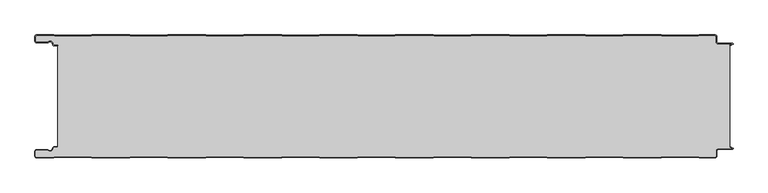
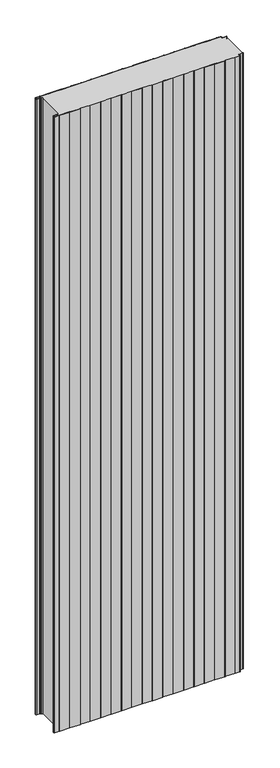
"""IFC4 building model written with IfcOpenShell, lengths in millimetres: plate geometry, ACH_Panel-Frigorífico_PUR-PIR : ACH_Panel-Frigorífico-PIR_180mm."""

from ifc_helpers import new_model, si_unit, point, frame_2d, origin, origin_with_axes, place, context, project, spatial, polyline, circle_curve, trimmed, segment, composite_curve, outline, extrude, source, transform, mapped, element, save


def plate_20741c4c(model_context):
    return source(origin(), model_context, "Body", "SweptSolid", [
        extrude(outline(composite_curve([segment(trimmed(circle_curve(frame_2d((-497.49499, -9.0180361)), 2.50501), [point((-497.49499, -11.5230461))], [point((-500.0, -9.0180361))], False, "CARTESIAN"), True, "CONTINUOUS"), segment(polyline([(-500.0, -9.0180361), (-500.0, -2.50501)]), True, "CONTINUOUS"), segment(trimmed(circle_curve(frame_2d((-497.49499, -2.50501)), 2.50501), [point((-500.0, -2.50501))], [point((-497.49499, 0.0))], False, "CARTESIAN"), True, "CONTINUOUS"), segment(polyline([(-497.49499, 0.0), (-472.2103007, 0.0), (-471.028188, -0.6012024), (-417.6391467, -0.6012024), (-416.457034, 0.0), (-360.8776353, 0.0), (-359.6955227, -0.6012024), (-306.3064814, -0.6012024), (-305.1243687, 0.0), (-249.54497, 0.0), (-248.3628573, -0.6012024), (-194.973816, -0.6012024), (-193.7917033, 0.0), (-138.2123047, 0.0), (-137.030192, -0.6012024), (-83.6411507, -0.6012024), (-82.459038, 0.0), (-26.8796393, 0.0), (-25.6975267, -0.6012024), (27.6915146, -0.6012024), (28.8736273, 0.0), (84.453026, 0.0), (85.6351387, -0.6012024), (139.02418, -0.6012024), (140.2062927, 0.0), (195.7856913, 0.0), (196.967804, -0.6012024), (250.3568453, -0.6012024), (251.538958, 0.0), (307.1183566, 0.0), (308.3004693, -0.6012024), (361.6895106, -0.6012024), (362.8716233, 0.0), (418.451022, 0.0), (419.6331347, -0.6012024), (473.022176, -0.6012024), (474.2042886, 0.0), (497.49499, 0.0)]), True, "CONTINUOUS"), segment(trimmed(circle_curve(frame_2d((497.49499, -2.50501)), 2.50501), [point((497.49499, 0.0))], [point((500.0, -2.50501))], False, "CARTESIAN"), True, "CONTINUOUS"), segment(polyline([(500.0, -2.50501), (500.0, -10.0200401)]), True, "CONTINUOUS"), segment(trimmed(circle_curve(frame_2d((502.004008, -10.0200401)), 2.004008), [point((500.0, -10.0200401))], [point((502.004008, -12.0240481))], True, "CARTESIAN"), True, "CONTINUOUS"), segment(polyline([(502.004008, -12.0240481), (523.0460922, -12.0240481)]), True, "CONTINUOUS"), segment(trimmed(circle_curve(frame_2d((523.0460922, -13.0260521)), 1.002004), [point((523.0460922, -12.0240481))], [point((523.5470942, -13.893813))], False, "CARTESIAN"), True, "CONTINUOUS"), segment(polyline([(523.5470942, -13.893813), (519.5390782, -16.2078422), (519.1390782, -15.5150218), (522.183956, -13.7570608)]), True, "CONTINUOUS"), segment(trimmed(circle_curve(frame_2d((521.933956, -13.3240481)), 0.5), [point((522.183956, -13.7570608))], [point((521.933956, -12.8240481))], True, "CARTESIAN"), True, "CONTINUOUS"), segment(polyline([(521.933956, -12.8240481), (502.004008, -12.8240481)]), True, "CONTINUOUS"), segment(trimmed(circle_curve(frame_2d((502.004008, -10.0200401)), 2.804008), [point((502.004008, -12.8240481))], [point((499.2, -10.0200401))], False, "CARTESIAN"), True, "CONTINUOUS"), segment(polyline([(499.2, -10.0200401), (499.2, -2.50501)]), True, "CONTINUOUS"), segment(trimmed(circle_curve(frame_2d((497.49499, -2.50501)), 1.70501), [point((499.2, -2.50501))], [point((497.49499, -0.8))], True, "CARTESIAN"), True, "CONTINUOUS"), segment(polyline([(497.49499, -0.8), (474.396035, -0.8), (473.2139223, -1.4012024), (419.4413883, -1.4012024), (418.2592756, -0.8), (363.0633697, -0.8), (361.881257, -1.4012024), (308.108723, -1.4012024), (306.9266103, -0.8), (251.7307044, -0.8), (250.5485917, -1.4012024), (196.7760576, -1.4012024), (195.5939449, -0.8), (140.398039, -0.8), (139.2159263, -1.4012024), (85.4433923, -1.4012024), (84.2612796, -0.8), (29.0653737, -0.8), (27.883261, -1.4012024), (-25.889273, -1.4012024), (-27.0713857, -0.8), (-82.2672916, -0.8), (-83.4494043, -1.4012024), (-137.2219384, -1.4012024), (-138.4040511, -0.8), (-193.599957, -0.8), (-194.7820696, -1.4012024), (-248.5546037, -1.4012024), (-249.7367164, -0.8), (-304.9326223, -0.8), (-306.114735, -1.4012024), (-359.887269, -1.4012024), (-361.0693817, -0.8), (-416.2652876, -0.8), (-417.4474003, -1.4012024), (-471.2199344, -1.4012024), (-472.4020471, -0.8), (-497.49499, -0.8)]), True, "CONTINUOUS"), segment(trimmed(circle_curve(frame_2d((-497.49499, -2.50501)), 1.70501), [point((-497.49499, -0.8))], [point((-499.2, -2.50501))], True, "CARTESIAN"), True, "CONTINUOUS"), segment(polyline([(-499.2, -2.50501), (-499.2, -9.0180361)]), True, "CONTINUOUS"), segment(trimmed(circle_curve(frame_2d((-497.49499, -9.0180361)), 1.70501), [point((-499.2, -9.0180361))], [point((-497.49499, -10.7230461))], True, "CARTESIAN"), True, "CONTINUOUS"), segment(polyline([(-497.49499, -10.7230461), (-481.8173283, -10.7230461)]), True, "CONTINUOUS"), segment(trimmed(circle_curve(frame_2d((-481.8173283, -9.0180361)), 1.70501), [point((-481.8173283, -10.7230461))], [point((-480.6895701, -10.2967936))], True, "CARTESIAN"), True, "CONTINUOUS"), segment(trimmed(circle_curve(frame_2d((-477.8407481, -13.5270541)), 4.307014), [point((-480.6895701, -10.2967936))], [point((-473.7934788, -12.0539686))], False, "CARTESIAN"), True, "CONTINUOUS"), segment(polyline([(-473.7934788, -12.0539686), (-473.0450711, -14.1102019)]), True, "CONTINUOUS"), segment(trimmed(circle_curve(frame_2d((-471.4428858, -13.5270541)), 1.70501), [point((-473.0450711, -14.1102019))], [point((-471.4428858, -15.2320641))], True, "CARTESIAN"), True, "CONTINUOUS"), segment(polyline([(-471.4428858, -15.2320641), (-466.4328657, -15.2320641), (-466.4328657, -16.0320641), (-471.4428858, -16.0320641)]), True, "CONTINUOUS"), segment(trimmed(circle_curve(frame_2d((-471.4428858, -13.5270541)), 2.50501), [point((-471.4428858, -16.0320641))], [point((-473.7968252, -14.383818))], False, "CARTESIAN"), True, "CONTINUOUS"), segment(polyline([(-473.7968252, -14.383818), (-474.5452329, -12.3275847)]), True, "CONTINUOUS"), segment(trimmed(circle_curve(frame_2d((-477.8407481, -13.5270541)), 3.507014), [point((-474.5452329, -12.3275847))], [point((-480.1604199, -10.8967936))], True, "CARTESIAN"), True, "CONTINUOUS"), segment(trimmed(circle_curve(frame_2d((-481.8173283, -9.0180361)), 2.50501), [point((-480.1604199, -10.8967936))], [point((-481.8173283, -11.5230461))], False, "CARTESIAN"), True, "CONTINUOUS"), segment(polyline([(-481.8173283, -11.5230461), (-497.49499, -11.5230461)]), True, "CONTINUOUS")], self_intersect=False)), origin_with_axes(), (0.0, 0.0, 1.0), 3500.0),
        extrude(outline(composite_curve([segment(trimmed(circle_curve(frame_2d((-471.4428858, -13.5270541)), 1.70501), [point((-471.4428858, -15.2320641))], [point((-473.0450711, -14.1102019))], False, "CARTESIAN"), True, "CONTINUOUS"), segment(polyline([(-473.0450711, -14.1102019), (-473.7934788, -12.0539686)]), True, "CONTINUOUS"), segment(trimmed(circle_curve(frame_2d((-477.8407481, -13.5270541)), 4.307014), [point((-473.7934788, -12.0539686))], [point((-480.6895701, -10.2967936))], True, "CARTESIAN"), True, "CONTINUOUS"), segment(trimmed(circle_curve(frame_2d((-481.8173283, -9.0180361)), 1.70501), [point((-480.6895701, -10.2967936))], [point((-481.8173283, -10.7230461))], False, "CARTESIAN"), True, "CONTINUOUS"), segment(polyline([(-481.8173283, -10.7230461), (-497.49499, -10.7230461)]), True, "CONTINUOUS"), segment(trimmed(circle_curve(frame_2d((-497.49499, -9.0180361)), 1.70501), [point((-497.49499, -10.7230461))], [point((-499.2, -9.0180361))], False, "CARTESIAN"), True, "CONTINUOUS"), segment(polyline([(-499.2, -9.0180361), (-499.2, -2.50501)]), True, "CONTINUOUS"), segment(trimmed(circle_curve(frame_2d((-497.49499, -2.50501)), 1.70501), [point((-499.2, -2.50501))], [point((-497.49499, -0.8))], False, "CARTESIAN"), True, "CONTINUOUS"), segment(polyline([(-497.49499, -0.8), (-472.4020471, -0.8), (-471.2199344, -1.4012024), (-417.4474003, -1.4012024), (-416.2652876, -0.8), (-361.0693817, -0.8), (-359.887269, -1.4012024), (-306.114735, -1.4012024), (-304.9326223, -0.8), (-249.7367164, -0.8), (-248.5546037, -1.4012024), (-194.7820696, -1.4012024), (-193.599957, -0.8), (-138.4040511, -0.8), (-137.2219384, -1.4012024), (-83.4494043, -1.4012024), (-82.2672916, -0.8), (-27.0713857, -0.8), (-25.889273, -1.4012024), (27.883261, -1.4012024), (29.0653737, -0.8), (84.2612796, -0.8), (85.4433923, -1.4012024), (139.2159263, -1.4012024), (140.398039, -0.8), (195.5939449, -0.8), (196.7760576, -1.4012024), (250.5485917, -1.4012024), (251.7307044, -0.8), (306.9266103, -0.8), (308.108723, -1.4012024), (361.881257, -1.4012024), (363.0633697, -0.8), (418.2592756, -0.8), (419.4413883, -1.4012024), (473.2139223, -1.4012024), (474.396035, -0.8), (497.49499, -0.8)]), True, "CONTINUOUS"), segment(trimmed(circle_curve(frame_2d((497.49499, -2.50501)), 1.70501), [point((497.49499, -0.8))], [point((499.2, -2.50501))], False, "CARTESIAN"), True, "CONTINUOUS"), segment(polyline([(499.2, -2.50501), (499.2, -10.0200401)]), True, "CONTINUOUS"), segment(trimmed(circle_curve(frame_2d((502.004008, -10.0200401)), 2.804008), [point((499.2, -10.0200401))], [point((502.004008, -12.8240481))], True, "CARTESIAN"), True, "CONTINUOUS"), segment(polyline([(502.004008, -12.8240481), (521.933956, -12.8240481)]), True, "CONTINUOUS"), segment(trimmed(circle_curve(frame_2d((521.933956, -13.3240481)), 0.5), [point((521.933956, -12.8240481))], [point((522.183956, -13.7570608))], False, "CARTESIAN"), True, "CONTINUOUS"), segment(polyline([(522.183956, -13.7570608), (519.1390782, -15.5150218), (519.1390782, -164.4849782), (522.183956, -166.2429392)]), True, "CONTINUOUS"), segment(trimmed(circle_curve(frame_2d((521.933956, -166.6759519)), 0.5), [point((522.183956, -166.2429392))], [point((521.933956, -167.1759519))], False, "CARTESIAN"), True, "CONTINUOUS"), segment(polyline([(521.933956, -167.1759519), (502.004008, -167.1759519)]), True, "CONTINUOUS"), segment(trimmed(circle_curve(frame_2d((502.004008, -169.9799599)), 2.804008), [point((502.004008, -167.1759519))], [point((499.2, -169.9799599))], True, "CARTESIAN"), True, "CONTINUOUS"), segment(polyline([(499.2, -169.9799599), (499.2, -177.49499)]), True, "CONTINUOUS"), segment(trimmed(circle_curve(frame_2d((497.49499, -177.49499)), 1.70501), [point((499.2, -177.49499))], [point((497.49499, -179.2))], False, "CARTESIAN"), True, "CONTINUOUS"), segment(polyline([(497.49499, -179.2), (474.396035, -179.2), (473.2139223, -178.5987976), (419.4413883, -178.5987976), (418.2592756, -179.2), (363.0633697, -179.2), (361.881257, -178.5987976), (308.108723, -178.5987976), (306.9266103, -179.2), (251.7307044, -179.2), (250.5485917, -178.5987976), (196.7760576, -178.5987976), (195.5939449, -179.2), (140.398039, -179.2), (139.2159263, -178.5987976), (85.4433923, -178.5987976), (84.2612796, -179.2), (29.0653737, -179.2), (27.883261, -178.5987976), (-25.889273, -178.5987976), (-27.0713857, -179.2), (-82.2672916, -179.2), (-83.4494043, -178.5987976), (-137.2219384, -178.5987976), (-138.4040511, -179.2), (-193.599957, -179.2), (-194.7820696, -178.5987976), (-248.5546037, -178.5987976), (-249.7367164, -179.2), (-304.9326223, -179.2), (-306.114735, -178.5987976), (-359.887269, -178.5987976), (-361.0693817, -179.2), (-416.2652876, -179.2), (-417.4474003, -178.5987976), (-471.2199344, -178.5987976), (-472.4020471, -179.2), (-497.49499, -179.2)]), True, "CONTINUOUS"), segment(trimmed(circle_curve(frame_2d((-497.49499, -177.49499)), 1.70501), [point((-497.49499, -179.2))], [point((-499.2, -177.49499))], False, "CARTESIAN"), True, "CONTINUOUS"), segment(polyline([(-499.2, -177.49499), (-499.2, -170.9819639)]), True, "CONTINUOUS"), segment(trimmed(circle_curve(frame_2d((-497.49499, -170.9819639)), 1.70501), [point((-499.2, -170.9819639))], [point((-497.49499, -169.2769539))], False, "CARTESIAN"), True, "CONTINUOUS"), segment(polyline([(-497.49499, -169.2769539), (-481.8173283, -169.2769539)]), True, "CONTINUOUS"), segment(trimmed(circle_curve(frame_2d((-481.8173283, -170.9819639)), 1.70501), [point((-481.8173283, -169.2769539))], [point((-480.6895701, -169.7032064))], False, "CARTESIAN"), True, "CONTINUOUS"), segment(trimmed(circle_curve(frame_2d((-477.8407481, -166.4729459)), 4.307014), [point((-480.6895701, -169.7032064))], [point((-473.7934788, -167.9460314))], True, "CARTESIAN"), True, "CONTINUOUS"), segment(polyline([(-473.7934788, -167.9460314), (-473.0450711, -165.8897981)]), True, "CONTINUOUS"), segment(trimmed(circle_curve(frame_2d((-471.4428858, -166.4729459)), 1.70501), [point((-473.0450711, -165.8897981))], [point((-471.4428858, -164.7679359))], False, "CARTESIAN"), True, "CONTINUOUS"), segment(polyline([(-471.4428858, -164.7679359), (-466.4328657, -164.7679359), (-466.4328657, -15.2320641), (-471.4428858, -15.2320641)]), True, "CONTINUOUS")], self_intersect=False)), origin_with_axes(), (0.0, 0.0, 1.0), 3500.0),
        extrude(outline(composite_curve([segment(polyline([(-497.49499, -168.4769539), (-481.8173283, -168.4769539)]), True, "CONTINUOUS"), segment(trimmed(circle_curve(frame_2d((-481.8173283, -170.9819639)), 2.50501), [point((-481.8173283, -168.4769539))], [point((-480.1604199, -169.1032064))], False, "CARTESIAN"), True, "CONTINUOUS"), segment(trimmed(circle_curve(frame_2d((-477.8407481, -166.4729459)), 3.507014), [point((-480.1604199, -169.1032064))], [point((-474.5452329, -167.6724153))], True, "CARTESIAN"), True, "CONTINUOUS"), segment(polyline([(-474.5452329, -167.6724153), (-473.7968252, -165.616182)]), True, "CONTINUOUS"), segment(trimmed(circle_curve(frame_2d((-471.4428858, -166.4729459)), 2.50501), [point((-473.7968252, -165.616182))], [point((-471.4428858, -163.9679359))], False, "CARTESIAN"), True, "CONTINUOUS"), segment(polyline([(-471.4428858, -163.9679359), (-466.4328657, -163.9679359), (-466.4328657, -164.7679359), (-471.4428858, -164.7679359)]), True, "CONTINUOUS"), segment(trimmed(circle_curve(frame_2d((-471.4428858, -166.4729459)), 1.70501), [point((-471.4428858, -164.7679359))], [point((-473.0450711, -165.8897981))], True, "CARTESIAN"), True, "CONTINUOUS"), segment(polyline([(-473.0450711, -165.8897981), (-473.7934788, -167.9460314)]), True, "CONTINUOUS"), segment(trimmed(circle_curve(frame_2d((-477.8407481, -166.4729459)), 4.307014), [point((-473.7934788, -167.9460314))], [point((-480.6895701, -169.7032064))], False, "CARTESIAN"), True, "CONTINUOUS"), segment(trimmed(circle_curve(frame_2d((-481.8173283, -170.9819639)), 1.70501), [point((-480.6895701, -169.7032064))], [point((-481.8173283, -169.2769539))], True, "CARTESIAN"), True, "CONTINUOUS"), segment(polyline([(-481.8173283, -169.2769539), (-497.49499, -169.2769539)]), True, "CONTINUOUS"), segment(trimmed(circle_curve(frame_2d((-497.49499, -170.9819639)), 1.70501), [point((-497.49499, -169.2769539))], [point((-499.2, -170.9819639))], True, "CARTESIAN"), True, "CONTINUOUS"), segment(polyline([(-499.2, -170.9819639), (-499.2, -177.49499)]), True, "CONTINUOUS"), segment(trimmed(circle_curve(frame_2d((-497.49499, -177.49499)), 1.70501), [point((-499.2, -177.49499))], [point((-497.49499, -179.2))], True, "CARTESIAN"), True, "CONTINUOUS"), segment(polyline([(-497.49499, -179.2), (-472.4020471, -179.2), (-471.2199344, -178.5987976), (-417.4474003, -178.5987976), (-416.2652876, -179.2), (-361.0693817, -179.2), (-359.887269, -178.5987976), (-306.114735, -178.5987976), (-304.9326223, -179.2), (-249.7367164, -179.2), (-248.5546037, -178.5987976), (-194.7820696, -178.5987976), (-193.599957, -179.2), (-138.4040511, -179.2), (-137.2219384, -178.5987976), (-83.4494043, -178.5987976), (-82.2672916, -179.2), (-27.0713857, -179.2), (-25.889273, -178.5987976), (27.883261, -178.5987976), (29.0653737, -179.2), (84.2612796, -179.2), (85.4433923, -178.5987976), (139.2159263, -178.5987976), (140.398039, -179.2), (195.5939449, -179.2), (196.7760576, -178.5987976), (250.5485917, -178.5987976), (251.7307044, -179.2), (306.9266103, -179.2), (308.108723, -178.5987976), (361.881257, -178.5987976), (363.0633697, -179.2), (418.2592756, -179.2), (419.4413883, -178.5987976), (473.2139223, -178.5987976), (474.396035, -179.2), (497.49499, -179.2)]), True, "CONTINUOUS"), segment(trimmed(circle_curve(frame_2d((497.49499, -177.49499)), 1.70501), [point((497.49499, -179.2))], [point((499.2, -177.49499))], True, "CARTESIAN"), True, "CONTINUOUS"), segment(polyline([(499.2, -177.49499), (499.2, -169.9799599)]), True, "CONTINUOUS"), segment(trimmed(circle_curve(frame_2d((502.004008, -169.9799599)), 2.804008), [point((499.2, -169.9799599))], [point((502.004008, -167.1759519))], False, "CARTESIAN"), True, "CONTINUOUS"), segment(polyline([(502.004008, -167.1759519), (521.933956, -167.1759519)]), True, "CONTINUOUS"), segment(trimmed(circle_curve(frame_2d((521.933956, -166.6759519)), 0.5), [point((521.933956, -167.1759519))], [point((522.183956, -166.2429392))], True, "CARTESIAN"), True, "CONTINUOUS"), segment(polyline([(522.183956, -166.2429392), (519.1390782, -164.4849782), (519.5390782, -163.7921578), (523.5470942, -166.106187)]), True, "CONTINUOUS"), segment(trimmed(circle_curve(frame_2d((523.0460922, -166.9739479)), 1.002004), [point((523.5470942, -166.106187))], [point((523.0460922, -167.9759519))], False, "CARTESIAN"), True, "CONTINUOUS"), segment(polyline([(523.0460922, -167.9759519), (502.004008, -167.9759519)]), True, "CONTINUOUS"), segment(trimmed(circle_curve(frame_2d((502.004008, -169.9799599)), 2.004008), [point((502.004008, -167.9759519))], [point((500.0, -169.9799599))], True, "CARTESIAN"), True, "CONTINUOUS"), segment(polyline([(500.0, -169.9799599), (500.0, -177.49499)]), True, "CONTINUOUS"), segment(trimmed(circle_curve(frame_2d((497.49499, -177.49499)), 2.50501), [point((500.0, -177.49499))], [point((497.49499, -180.0))], False, "CARTESIAN"), True, "CONTINUOUS"), segment(polyline([(497.49499, -180.0), (474.2042886, -180.0), (473.022176, -179.3987976), (419.6331347, -179.3987976), (418.451022, -180.0), (362.8716233, -180.0), (361.6895106, -179.3987976), (308.3004693, -179.3987976), (307.1183566, -180.0), (251.538958, -180.0), (250.3568453, -179.3987976), (196.967804, -179.3987976), (195.7856913, -180.0), (140.2062927, -180.0), (139.02418, -179.3987976), (85.6351387, -179.3987976), (84.453026, -180.0), (28.8736273, -180.0), (27.6915146, -179.3987976), (-25.6975267, -179.3987976), (-26.8796393, -180.0), (-82.459038, -180.0), (-83.6411507, -179.3987976), (-137.030192, -179.3987976), (-138.2123047, -180.0), (-193.7917033, -180.0), (-194.973816, -179.3987976), (-248.3628573, -179.3987976), (-249.54497, -180.0), (-305.1243687, -180.0), (-306.3064814, -179.3987976), (-359.6955227, -179.3987976), (-360.8776353, -180.0), (-416.457034, -180.0), (-417.6391467, -179.3987976), (-471.028188, -179.3987976), (-472.2103007, -180.0), (-497.49499, -180.0)]), True, "CONTINUOUS"), segment(trimmed(circle_curve(frame_2d((-497.49499, -177.49499)), 2.50501), [point((-497.49499, -180.0))], [point((-500.0, -177.49499))], False, "CARTESIAN"), True, "CONTINUOUS"), segment(polyline([(-500.0, -177.49499), (-500.0, -170.9819639)]), True, "CONTINUOUS"), segment(trimmed(circle_curve(frame_2d((-497.49499, -170.9819639)), 2.50501), [point((-500.0, -170.9819639))], [point((-497.49499, -168.4769539))], False, "CARTESIAN"), True, "CONTINUOUS")], self_intersect=False)), origin_with_axes(), (0.0, 0.0, 1.0), 3500.0),
    ])


if __name__ == "__main__":
    model = new_model("IFC4")
    model_context = context("Model", 3, world=origin())
    ifc_project = project(units=[si_unit("LENGTHUNIT", "METRE", prefix="MILLI")], contexts=[model_context])
    site = spatial("IfcSite", under=ifc_project)
    building = spatial("IfcBuilding", under=site)
    placement = place(None, origin())
    plate_shape = plate_20741c4c(model_context)
    element("IfcPlate", 1, ObjectType="ACH_Panel-Frigorífico_PUR-PIR : ACH_Panel-Frigorífico-PIR_180mm", at=placement, inside=building, context=model_context, shape_type="MappedRepresentation", body=[
        mapped(plate_shape, transform((0.0, 0.0, 0.0), x_axis=(1.0, 0.0, 0.0), y_axis=(0.0, 1.0, 0.0), z_axis=(0.0, 0.0, 1.0))),
    ])
    save(model, "model.ifc")
